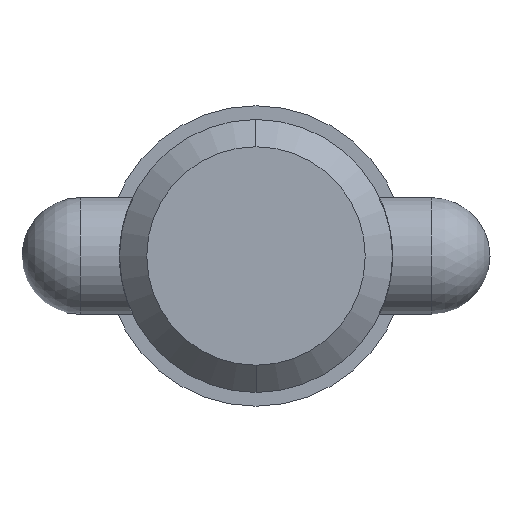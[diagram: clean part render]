
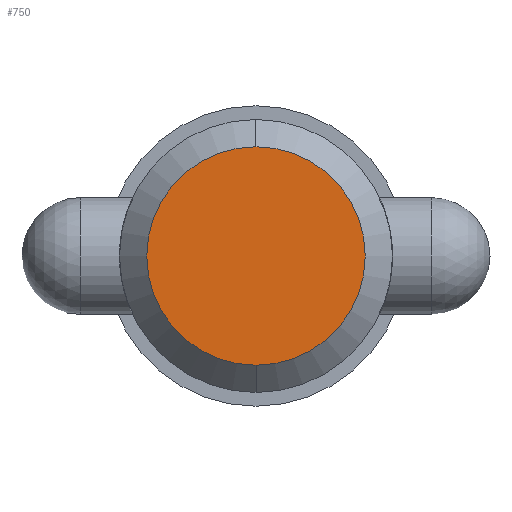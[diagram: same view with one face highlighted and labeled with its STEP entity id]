
A CAD part, left-side view. The second image highlights one B-rep face of the part: STEP entity #750.
In plain terms, the highlighted planar face has unit normal (-1, 0, 0).
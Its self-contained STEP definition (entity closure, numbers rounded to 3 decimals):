
#36 = DIRECTION ( 'NONE',  ( 1., 0., 0. ) ) ;
#72 = CIRCLE ( 'NONE', #695, 8.892 ) ;
#103 = DIRECTION ( 'NONE',  ( 0., 0., -1. ) ) ;
#107 = ORIENTED_EDGE ( 'NONE', *, *, #507, .F. ) ;
#140 = EDGE_CURVE ( 'NONE', #523, #736, #755, .T. ) ;
#427 = FACE_OUTER_BOUND ( 'NONE', #993, .T. ) ;
#450 = DIRECTION ( 'NONE',  ( 1., 0., 0. ) ) ;
#504 = DIRECTION ( 'NONE',  ( -1., 0., 0. ) ) ;
#507 = EDGE_CURVE ( 'NONE', #736, #523, #72, .T. ) ;
#523 = VERTEX_POINT ( 'NONE', #876 ) ;
#685 = DIRECTION ( 'NONE',  ( 0., 0., 1. ) ) ;
#695 = AXIS2_PLACEMENT_3D ( 'NONE', #699, #36, #103 ) ;
#699 = CARTESIAN_POINT ( 'NONE',  ( 0., 0., 0. ) ) ;
#736 = VERTEX_POINT ( 'NONE', #748 ) ;
#743 = ORIENTED_EDGE ( 'NONE', *, *, #140, .F. ) ;
#748 = CARTESIAN_POINT ( 'NONE',  ( 0., 0., -8.892 ) ) ;
#750 = ADVANCED_FACE ( 'NONE', ( #427 ), #920, .T. ) ;
#755 = CIRCLE ( 'NONE', #794, 8.892 ) ;
#794 = AXIS2_PLACEMENT_3D ( 'NONE', #944, #450, #868 ) ;
#827 = CARTESIAN_POINT ( 'NONE',  ( 0., 0., 0. ) ) ;
#868 = DIRECTION ( 'NONE',  ( 0., 0., -1. ) ) ;
#876 = CARTESIAN_POINT ( 'NONE',  ( 0., 0., 8.892 ) ) ;
#920 = PLANE ( 'NONE',  #984 ) ;
#944 = CARTESIAN_POINT ( 'NONE',  ( 0., 0., 0. ) ) ;
#984 = AXIS2_PLACEMENT_3D ( 'NONE', #827, #504, #685 ) ;
#993 = EDGE_LOOP ( 'NONE', ( #107, #743 ) ) ;
